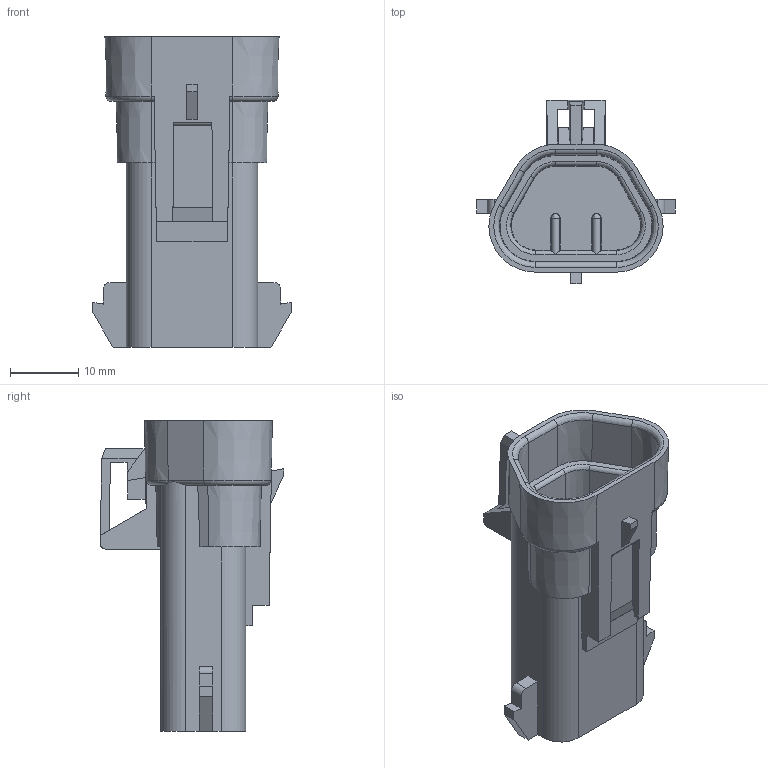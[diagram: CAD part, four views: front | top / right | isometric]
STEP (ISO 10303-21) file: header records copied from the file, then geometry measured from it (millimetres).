
FILE_DESCRIPTION(/* description */ (''),/* implementation_level */ '2;1');
FILE_NAME(/* name */ '12103974-ENV1103.stp',/* time_stamp */ '2019-07-31T19:30:34+05:00',/* author */ (''),/* organization */ (''),/* preprocessor_version */ 'ST-DEVELOPER v16',/* originating_system */ 'SIEMENS PLM Software NX 11.0',/* authorisation */ '');
FILE_SCHEMA (('AUTOMOTIVE_DESIGN { 1 0 10303 214 3 1 1 1 }'));
Length unit declared in the file: millimetre
Products named in the file (1): 12103974-ENV11_03-CONN
Bounding box: 29 x 26.86 x 45.5 mm (x, y, z)
Volume: 9167.8 mm3; surface area: 5422.7 mm2
Topology: 1 solids, 1 shells, 163 faces, 454 edges, 288 vertices
Faces by surface type: plane 105, cylinder 26, cone 18, bspline 10, torus 4
Entity records: 5817 total; most frequent: CARTESIAN_POINT 1681, ORIENTED_EDGE 900, DIRECTION 804, EDGE_CURVE 450, LINE 332, VECTOR 332, VERTEX_POINT 288, AXIS2_PLACEMENT_3D 236
